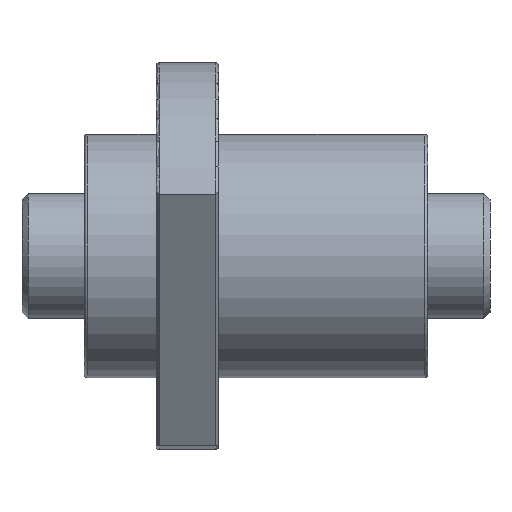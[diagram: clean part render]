
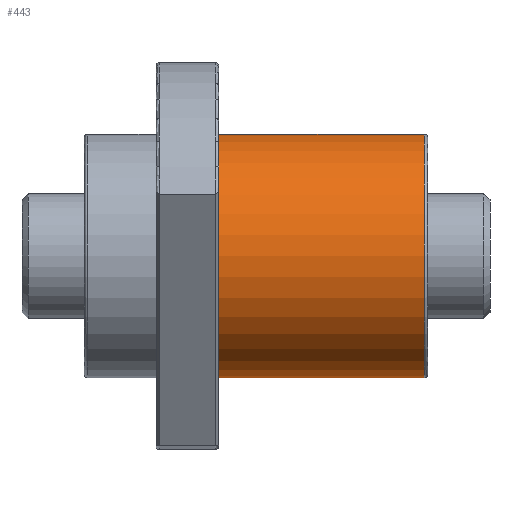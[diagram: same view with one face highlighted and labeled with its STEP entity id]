
A CAD part, front view. The second image highlights one B-rep face of the part: STEP entity #443.
In plain terms, the highlighted cylindrical face has radius 19.5 mm (diameter 39 mm), a partial arc.
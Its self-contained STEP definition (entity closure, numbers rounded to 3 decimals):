
#106 = DIRECTION ( 'NONE',  ( -1., 0., 0. ) ) ;
#212 = EDGE_LOOP ( 'NONE', ( #405, #1891, #699, #1045 ) ) ;
#223 = AXIS2_PLACEMENT_3D ( 'NONE', #1376, #1143, #306 ) ;
#235 = DIRECTION ( 'NONE',  ( -1., 0., 0. ) ) ;
#289 = DIRECTION ( 'NONE',  ( -1., 0., 0. ) ) ;
#306 = DIRECTION ( 'NONE',  ( 0., 0., -1. ) ) ;
#405 = ORIENTED_EDGE ( 'NONE', *, *, #637, .F. ) ;
#443 = ADVANCED_FACE ( 'NONE', ( #1394 ), #2089, .T. ) ;
#449 = CARTESIAN_POINT ( 'NONE',  ( 54., 0., 19.5 ) ) ;
#564 = CARTESIAN_POINT ( 'NONE',  ( 54.5, 0., -19.5 ) ) ;
#594 = VECTOR ( 'NONE', #235, 1000. ) ;
#637 = EDGE_CURVE ( 'NONE', #1699, #817, #702, .T. ) ;
#691 = CARTESIAN_POINT ( 'NONE',  ( 21.5, 0., 0. ) ) ;
#699 = ORIENTED_EDGE ( 'NONE', *, *, #2516, .T. ) ;
#702 = LINE ( 'NONE', #2355, #2486 ) ;
#705 = CIRCLE ( 'NONE', #2678, 19.5 ) ;
#727 = CARTESIAN_POINT ( 'NONE',  ( 54., 0., 0. ) ) ;
#817 = VERTEX_POINT ( 'NONE', #943 ) ;
#895 = EDGE_CURVE ( 'NONE', #1184, #817, #705, .T. ) ;
#899 = DIRECTION ( 'NONE',  ( 1., 0., 0. ) ) ;
#943 = CARTESIAN_POINT ( 'NONE',  ( 21.5, 0., -19.5 ) ) ;
#1045 = ORIENTED_EDGE ( 'NONE', *, *, #895, .T. ) ;
#1094 = VERTEX_POINT ( 'NONE', #2390 ) ;
#1096 = AXIS2_PLACEMENT_3D ( 'NONE', #727, #106, #2370 ) ;
#1143 = DIRECTION ( 'NONE',  ( -1., 0., 0. ) ) ;
#1184 = VERTEX_POINT ( 'NONE', #1926 ) ;
#1376 = CARTESIAN_POINT ( 'NONE',  ( 54.5, 0., 0. ) ) ;
#1394 = FACE_OUTER_BOUND ( 'NONE', #212, .T. ) ;
#1576 = EDGE_CURVE ( 'NONE', #1699, #1094, #2404, .T. ) ;
#1699 = VERTEX_POINT ( 'NONE', #564 ) ;
#1891 = ORIENTED_EDGE ( 'NONE', *, *, #1576, .T. ) ;
#1926 = CARTESIAN_POINT ( 'NONE',  ( 21.5, 0., 19.5 ) ) ;
#2089 = CYLINDRICAL_SURFACE ( 'NONE', #1096, 19.5 ) ;
#2336 = LINE ( 'NONE', #449, #594 ) ;
#2355 = CARTESIAN_POINT ( 'NONE',  ( 54., 0., -19.5 ) ) ;
#2370 = DIRECTION ( 'NONE',  ( 0., 0., 1. ) ) ;
#2386 = DIRECTION ( 'NONE',  ( 0., 0., 1. ) ) ;
#2390 = CARTESIAN_POINT ( 'NONE',  ( 54.5, 0., 19.5 ) ) ;
#2404 = CIRCLE ( 'NONE', #223, 19.5 ) ;
#2486 = VECTOR ( 'NONE', #289, 1000. ) ;
#2516 = EDGE_CURVE ( 'NONE', #1094, #1184, #2336, .T. ) ;
#2678 = AXIS2_PLACEMENT_3D ( 'NONE', #691, #899, #2386 ) ;
